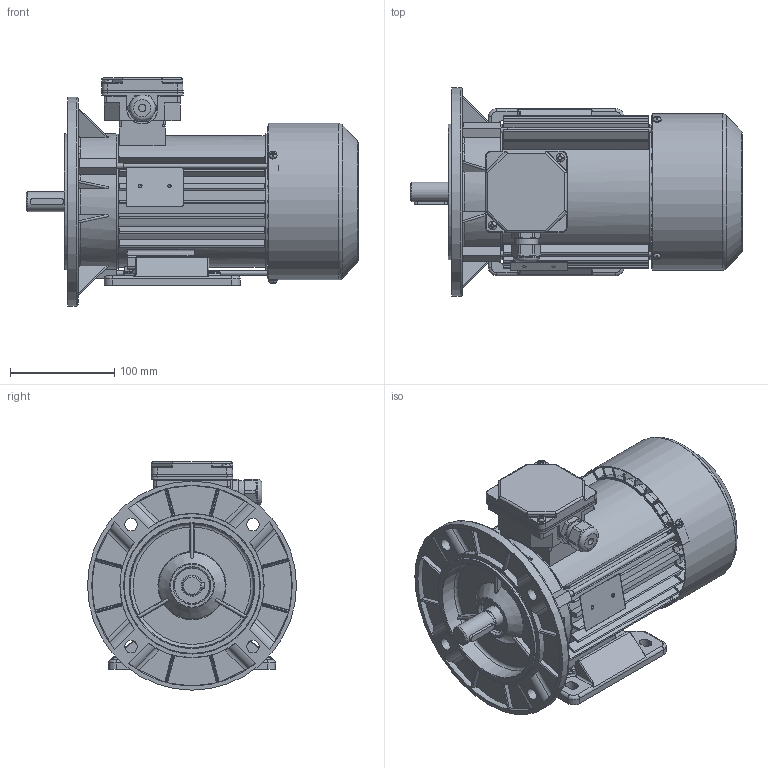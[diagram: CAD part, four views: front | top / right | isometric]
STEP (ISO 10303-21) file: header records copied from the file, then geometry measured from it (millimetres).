
FILE_DESCRIPTION(/* description */ ('Unknown'),/* implementation_level */ '2;1');
FILE_NAME(/* name */ '3SIEL80-8B',/* time_stamp */ '2021-02-03T16:44:27+01:00',/* author */ ('Unknown'),/* organization */ ('Unknown'),/* preprocessor_version */ 'ST-DEVELOPER v16.7',/* originating_system */ 'Solid Edge',/* authorisation */ 'Unknown');
FILE_SCHEMA (('AUTOMOTIVE_DESIGN {1 0 10303 214 3 1 1}'));
Products named in the file (1): 3SIEL80-8B
Bounding box: 317.78 x 200 x 218.5 mm (x, y, z)
Volume: 1210608.2 mm3; surface area: 636527.7 mm2
Topology: 4 solids, 4 shells, 2679 faces, 7510 edges, 4871 vertices
Faces by surface type: plane 1322, cylinder 885, torus 196, cone 130, bspline 126, sphere 20
Full cylindrical faces by diameter (mm): 2 x2, 2.4 x2, 3.7 x8, 4 x4, 4.4 x3, 4.5 x1, 4.8 x2, 5 x5, 5.1 x3, 5.5 x3, 6.5 x4, 7 x1, 8 x6, 12 x4, 18.598 x1, 18.998 x1, 19.298 x1, 19.498 x1, 19.898 x1, 19.948 x1, 19.998 x2, 20.4 x2, 22.3 x1, 25 x1, 25.497 x1, 25.597 x1, 25.997 x4, 28.799 x4, 34 x2, 38.198 x4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
Entity records: 107797 total; most frequent: CARTESIAN_POINT 23411, ORIENTED_EDGE 14322, DIRECTION 13505, EDGE_CURVE 7161, AXIS2_PLACEMENT_3D 4903, VERTEX_POINT 4747, LINE 3699, VECTOR 3699
